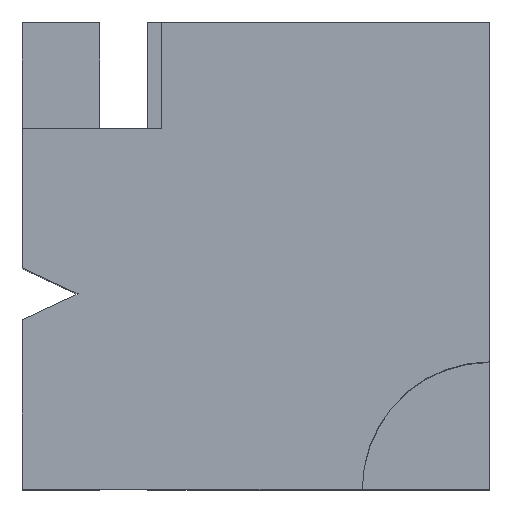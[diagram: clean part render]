
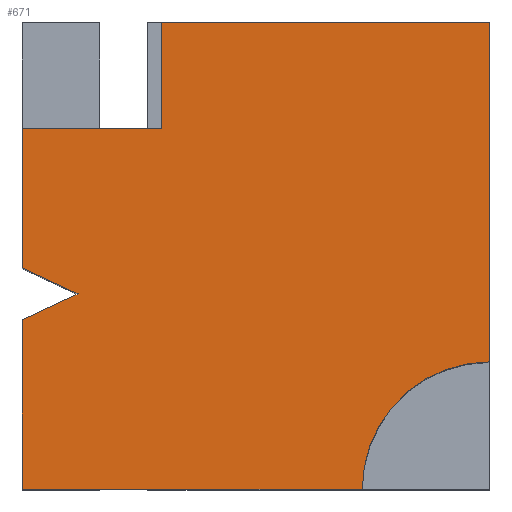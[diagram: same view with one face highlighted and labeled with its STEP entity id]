
A CAD part, top view. The second image highlights one B-rep face of the part: STEP entity #671.
In plain terms, the highlighted planar face has unit normal (0, 0, 1).
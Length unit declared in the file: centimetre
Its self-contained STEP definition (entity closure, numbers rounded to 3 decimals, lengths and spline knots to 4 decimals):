
#11 = LINE ( 'NONE', #503, #1003 ) ;
#30 = EDGE_CURVE ( 'NONE', #429, #44, #913, .T. ) ;
#35 = CARTESIAN_POINT ( 'NONE',  ( 1000., 1000., 1000. ) ) ;
#39 = CARTESIAN_POINT ( 'NONE',  ( 0., 0., 1000. ) ) ;
#44 = VERTEX_POINT ( 'NONE', #404 ) ;
#82 = DIRECTION ( 'NONE',  ( 1., 0., 0. ) ) ;
#84 = CARTESIAN_POINT ( 'NONE',  ( 1000., 272.5584, 1000. ) ) ;
#101 = VERTEX_POINT ( 'NONE', #741 ) ;
#106 = LINE ( 'NONE', #522, #469 ) ;
#124 = VERTEX_POINT ( 'NONE', #674 ) ;
#130 = DIRECTION ( 'NONE',  ( 0., -1., 0. ) ) ;
#148 = PLANE ( 'NONE',  #614 ) ;
#171 = EDGE_CURVE ( 'NONE', #101, #990, #871, .T. ) ;
#172 = DIRECTION ( 'NONE',  ( -0.906, 0.422, 0. ) ) ;
#191 = VERTEX_POINT ( 'NONE', #286 ) ;
#230 = EDGE_CURVE ( 'NONE', #951, #124, #617, .T. ) ;
#238 = CARTESIAN_POINT ( 'NONE',  ( 1000., 1000., 1000. ) ) ;
#241 = CARTESIAN_POINT ( 'NONE',  ( 119.0223, 418.087, 1000. ) ) ;
#257 = EDGE_CURVE ( 'NONE', #454, #191, #959, .T. ) ;
#264 = VECTOR ( 'NONE', #693, 100. ) ;
#283 = VECTOR ( 'NONE', #292, 100. ) ;
#286 = CARTESIAN_POINT ( 'NONE',  ( 727.4416, 0., 1000. ) ) ;
#289 = EDGE_CURVE ( 'NONE', #454, #1006, #573, .T. ) ;
#292 = DIRECTION ( 'NONE',  ( -1., 0., 0. ) ) ;
#301 = CARTESIAN_POINT ( 'NONE',  ( 1000., 0., 1000. ) ) ;
#309 = DIRECTION ( 'NONE',  ( 0., 0., 1. ) ) ;
#317 = ORIENTED_EDGE ( 'NONE', *, *, #934, .T. ) ;
#357 = DIRECTION ( 'NONE',  ( 1., 0., 0. ) ) ;
#368 = CARTESIAN_POINT ( 'NONE',  ( 0., 1000., 1000. ) ) ;
#374 = ORIENTED_EDGE ( 'NONE', *, *, #230, .F. ) ;
#404 = CARTESIAN_POINT ( 'NONE',  ( 0., 473.544, 1000. ) ) ;
#429 = VERTEX_POINT ( 'NONE', #763 ) ;
#454 = VERTEX_POINT ( 'NONE', #84 ) ;
#460 = CARTESIAN_POINT ( 'NONE',  ( 0., 771.1353, 1000. ) ) ;
#464 = ORIENTED_EDGE ( 'NONE', *, *, #171, .T. ) ;
#469 = VECTOR ( 'NONE', #943, 100. ) ;
#503 = CARTESIAN_POINT ( 'NONE',  ( 0., 0., 1000. ) ) ;
#513 = CARTESIAN_POINT ( 'NONE',  ( 0., 771.1353, 1000. ) ) ;
#522 = CARTESIAN_POINT ( 'NONE',  ( 0., 362.63, 1000. ) ) ;
#547 = DIRECTION ( 'NONE',  ( 1., 0., 0. ) ) ;
#572 = EDGE_CURVE ( 'NONE', #101, #429, #106, .T. ) ;
#573 = LINE ( 'NONE', #238, #993 ) ;
#583 = VECTOR ( 'NONE', #172, 100. ) ;
#612 = ORIENTED_EDGE ( 'NONE', *, *, #781, .T. ) ;
#614 = AXIS2_PLACEMENT_3D ( 'NONE', #1050, #309, #807 ) ;
#617 = LINE ( 'NONE', #954, #264 ) ;
#618 = ORIENTED_EDGE ( 'NONE', *, *, #572, .F. ) ;
#624 = CARTESIAN_POINT ( 'NONE',  ( 297.701, 771.1353, 1000. ) ) ;
#657 = ORIENTED_EDGE ( 'NONE', *, *, #289, .T. ) ;
#671 = ADVANCED_FACE ( 'NONE', ( #721 ), #148, .T. ) ;
#674 = CARTESIAN_POINT ( 'NONE',  ( 297.701, 1000., 1000. ) ) ;
#689 = EDGE_CURVE ( 'NONE', #837, #44, #812, .T. ) ;
#693 = DIRECTION ( 'NONE',  ( 0., 1., 0. ) ) ;
#721 = FACE_OUTER_BOUND ( 'NONE', #966, .T. ) ;
#732 = VECTOR ( 'NONE', #357, 100. ) ;
#741 = CARTESIAN_POINT ( 'NONE',  ( 0., 362.63, 1000. ) ) ;
#763 = CARTESIAN_POINT ( 'NONE',  ( 119.0223, 418.087, 1000. ) ) ;
#781 = EDGE_CURVE ( 'NONE', #990, #191, #11, .T. ) ;
#790 = LINE ( 'NONE', #460, #732 ) ;
#807 = DIRECTION ( 'NONE',  ( 1., 0., 0. ) ) ;
#812 = LINE ( 'NONE', #818, #852 ) ;
#818 = CARTESIAN_POINT ( 'NONE',  ( 0., 1000., 1000. ) ) ;
#821 = ORIENTED_EDGE ( 'NONE', *, *, #689, .T. ) ;
#828 = ORIENTED_EDGE ( 'NONE', *, *, #953, .F. ) ;
#837 = VERTEX_POINT ( 'NONE', #513 ) ;
#852 = VECTOR ( 'NONE', #130, 100. ) ;
#867 = DIRECTION ( 'NONE',  ( 0., 0., 1. ) ) ;
#871 = LINE ( 'NONE', #368, #1028 ) ;
#882 = DIRECTION ( 'NONE',  ( 0., -1., 0. ) ) ;
#913 = LINE ( 'NONE', #241, #583 ) ;
#934 = EDGE_CURVE ( 'NONE', #1006, #124, #952, .T. ) ;
#942 = AXIS2_PLACEMENT_3D ( 'NONE', #301, #867, #547 ) ;
#943 = DIRECTION ( 'NONE',  ( 0.906, 0.422, 0. ) ) ;
#951 = VERTEX_POINT ( 'NONE', #624 ) ;
#952 = LINE ( 'NONE', #1021, #283 ) ;
#953 = EDGE_CURVE ( 'NONE', #837, #951, #790, .T. ) ;
#954 = CARTESIAN_POINT ( 'NONE',  ( 297.701, 771.1353, 1000. ) ) ;
#959 = CIRCLE ( 'NONE', #942, 272.5584 ) ;
#966 = EDGE_LOOP ( 'NONE', ( #374, #828, #821, #1071, #618, #464, #612, #1067, #657, #317 ) ) ;
#990 = VERTEX_POINT ( 'NONE', #39 ) ;
#993 = VECTOR ( 'NONE', #1046, 100. ) ;
#1003 = VECTOR ( 'NONE', #82, 100. ) ;
#1006 = VERTEX_POINT ( 'NONE', #35 ) ;
#1021 = CARTESIAN_POINT ( 'NONE',  ( 0., 1000., 1000. ) ) ;
#1028 = VECTOR ( 'NONE', #882, 100. ) ;
#1046 = DIRECTION ( 'NONE',  ( 0., 1., 0. ) ) ;
#1050 = CARTESIAN_POINT ( 'NONE',  ( 0., 0., 1000. ) ) ;
#1067 = ORIENTED_EDGE ( 'NONE', *, *, #257, .F. ) ;
#1071 = ORIENTED_EDGE ( 'NONE', *, *, #30, .F. ) ;
